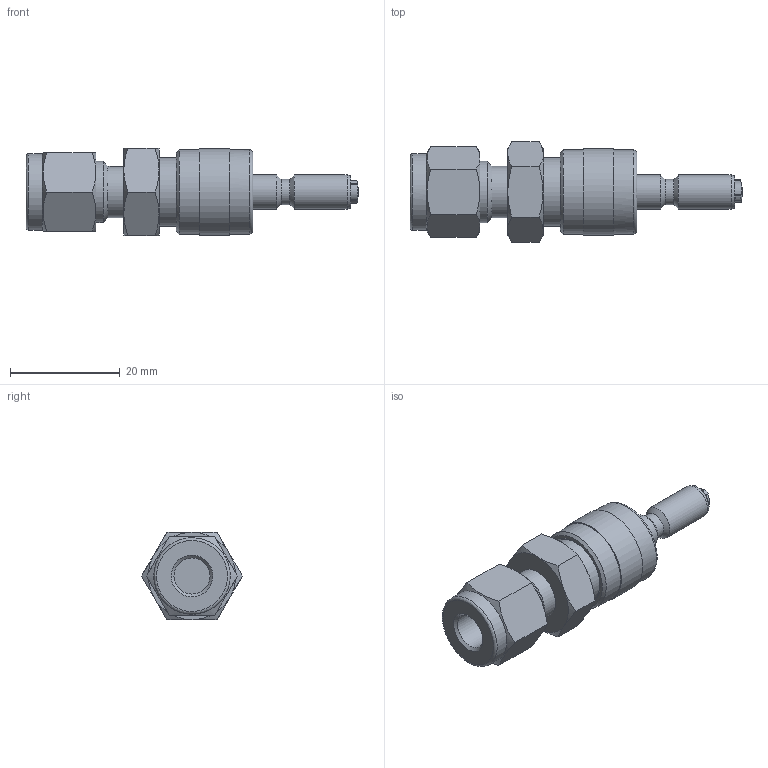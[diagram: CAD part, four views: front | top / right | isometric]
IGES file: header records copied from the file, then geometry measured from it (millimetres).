
Global section: file name: SQC1P-S4-S0; native system: Autodesk Inventor 2016; preprocessor: unknown; author: 이승민,,11,0; organization: 20170208.082248; date: 20170208.203307; units: millimetre
Bounding box: 60.4 x 18.33 x 15.88 mm (x, y, z)
Volume: 6584.9 mm3; surface area: 3729 mm2
Topology: 1 solids, 1 shells, 102 faces, 271 edges, 185 vertices
Faces by surface type: bspline 102
